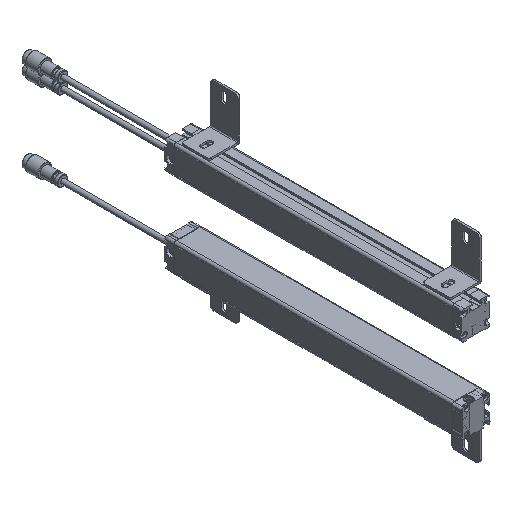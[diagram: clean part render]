
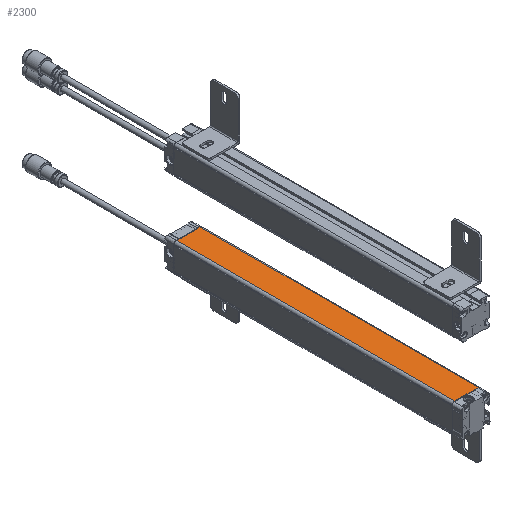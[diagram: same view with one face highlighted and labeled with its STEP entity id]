
A CAD part, isometric view. The second image highlights one B-rep face of the part: STEP entity #2300.
In plain terms, the highlighted planar face has unit normal (0, 0, 1).
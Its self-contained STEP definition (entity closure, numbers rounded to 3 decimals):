
#1164=PLANE('',#24261);
#2300=ADVANCED_FACE('',(#3785),#1164,.T.);
#3785=FACE_OUTER_BOUND('',#4989,.T.);
#4989=EDGE_LOOP('',(#13641,#13642,#13643,#13644));
#6792=LINE('',#35868,#9188);
#6793=LINE('',#35871,#9189);
#6794=LINE('',#35873,#9190);
#6795=LINE('',#35875,#9191);
#9188=VECTOR('',#28234,1.);
#9189=VECTOR('',#28235,1.);
#9190=VECTOR('',#28236,1.);
#9191=VECTOR('',#28237,1.);
#13641=ORIENTED_EDGE('',*,*,#20981,.T.);
#13642=ORIENTED_EDGE('',*,*,#20982,.T.);
#13643=ORIENTED_EDGE('',*,*,#20983,.T.);
#13644=ORIENTED_EDGE('',*,*,#20984,.T.);
#18218=VERTEX_POINT('',#35869);
#18219=VERTEX_POINT('',#35870);
#18220=VERTEX_POINT('',#35872);
#18221=VERTEX_POINT('',#35874);
#20981=EDGE_CURVE('',#18218,#18219,#6792,.T.);
#20982=EDGE_CURVE('',#18219,#18220,#6793,.T.);
#20983=EDGE_CURVE('',#18220,#18221,#6794,.T.);
#20984=EDGE_CURVE('',#18221,#18218,#6795,.T.);
#24261=AXIS2_PLACEMENT_3D('',#35876,#28238,#28239);
#28234=DIRECTION('',(1.,0.,0.));
#28235=DIRECTION('',(0.,1.,0.));
#28236=DIRECTION('',(-1.,0.,0.));
#28237=DIRECTION('',(0.,-1.,0.));
#28238=DIRECTION('',(0.,0.,1.));
#28239=DIRECTION('',(1.,0.,0.));
#35868=CARTESIAN_POINT('',(-15.2,-40.,15.65));
#35869=CARTESIAN_POINT('',(-12.7,-40.,15.65));
#35870=CARTESIAN_POINT('',(12.7,-40.,15.65));
#35871=CARTESIAN_POINT('',(12.7,0.,15.65));
#35872=CARTESIAN_POINT('',(12.7,260.,15.65));
#35873=CARTESIAN_POINT('',(-15.2,260.,15.65));
#35874=CARTESIAN_POINT('',(-12.7,260.,15.65));
#35875=CARTESIAN_POINT('',(-12.7,0.,15.65));
#35876=CARTESIAN_POINT('',(-15.2,0.,15.65));
